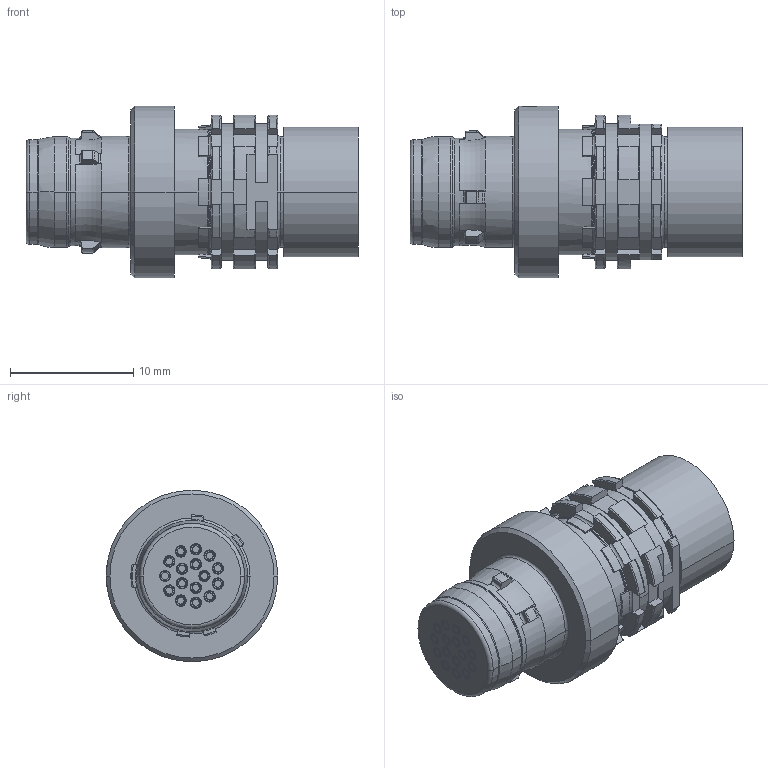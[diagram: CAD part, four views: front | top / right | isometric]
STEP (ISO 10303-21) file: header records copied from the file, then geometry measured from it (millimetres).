
FILE_DESCRIPTION((''),'2;1');
FILE_NAME('A11Y_R-P16WDD0-R000_EXTERN','2020-10-27T08:18:40',('EUnterhaslberger'),(''),'CREO PARAMETRIC BY PTC INC, 2018300','CREO PARAMETRIC BY PTC INC, 2018300','');
FILE_SCHEMA(('AP242_MANAGED_MODEL_BASED_3D_ENGINEERING_MIM_LF { 1 0 10303 442 1 1 4 }'));
Length unit declared in the file: millimetre
Products named in the file (1): A11Y_R-P16WDD0-R000_EXTERN
Bounding box: 26.9 x 13.9 x 13.9 mm (x, y, z)
Volume: 1893.3 mm3; surface area: 3111 mm2
Topology: 2 solids, 18 shells, 951 faces, 2481 edges, 1592 vertices
Faces by surface type: plane 313, cylinder 312, torus 163, cone 161, bspline 2
Entity records: 37455 total; most frequent: CARTESIAN_POINT 7346, DIRECTION 5131, ORIENTED_EDGE 4898, EDGE_CURVE 2449, AXIS2_PLACEMENT_3D 2080, VERTEX_POINT 1592, CIRCLE 1131, EDGE_LOOP 1063
